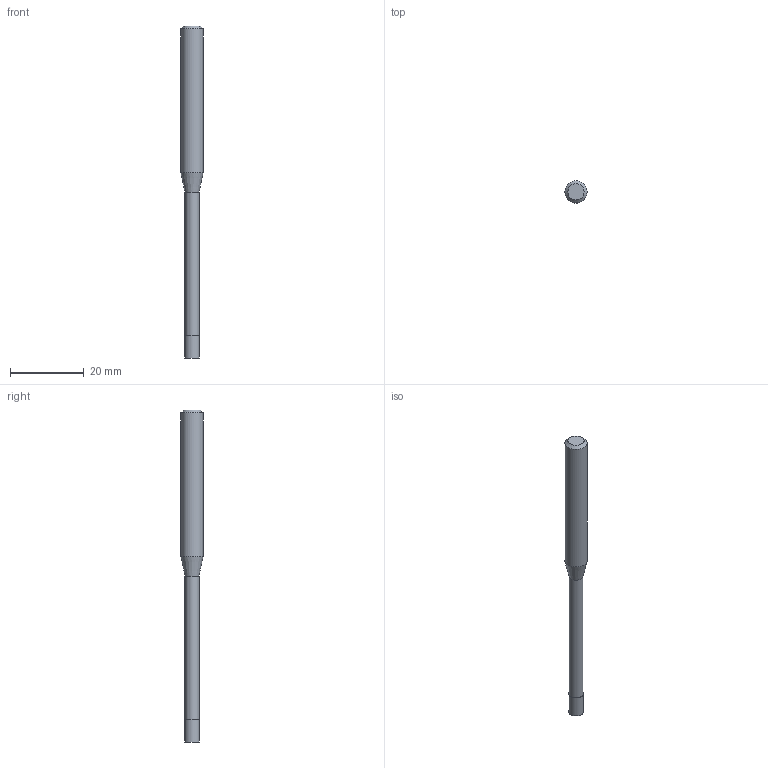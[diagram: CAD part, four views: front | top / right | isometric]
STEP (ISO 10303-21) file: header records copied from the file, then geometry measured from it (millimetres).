
FILE_DESCRIPTION((''),'2;1');
FILE_NAME('C:\Users\nsx150\AppData\Local\Temp\Mastercam 2021\17T8Q8S9EB\TEMP.step','2021-04-21T14:28:50',(''),(''),'STEP Write','Mastercam 2021 ... CNC Software, Inc.','');
FILE_SCHEMA(('AUTOMOTIVE_DESIGN'));
Length unit declared in the file: millimetre
Products named in the file (1): None
Bounding box: 6 x 6 x 90 mm (x, y, z)
Volume: 1737.5 mm3; surface area: 1428.2 mm2
Topology: 2 solids, 2 shells, 9 faces, 12 edges, 7 vertices
Faces by surface type: plane 4, cylinder 3, cone 2
Full cylindrical faces by diameter (mm): 3.8 x1, 4 x1, 6 x1
Entity records: 211 total; most frequent: DIRECTION 36, CARTESIAN_POINT 25, AXIS2_PLACEMENT_3D 18, ORIENTED_EDGE 14, EDGE_LOOP 14, STYLED_ITEM 12, ADVANCED_FACE 9, FACE_BOUND 8
